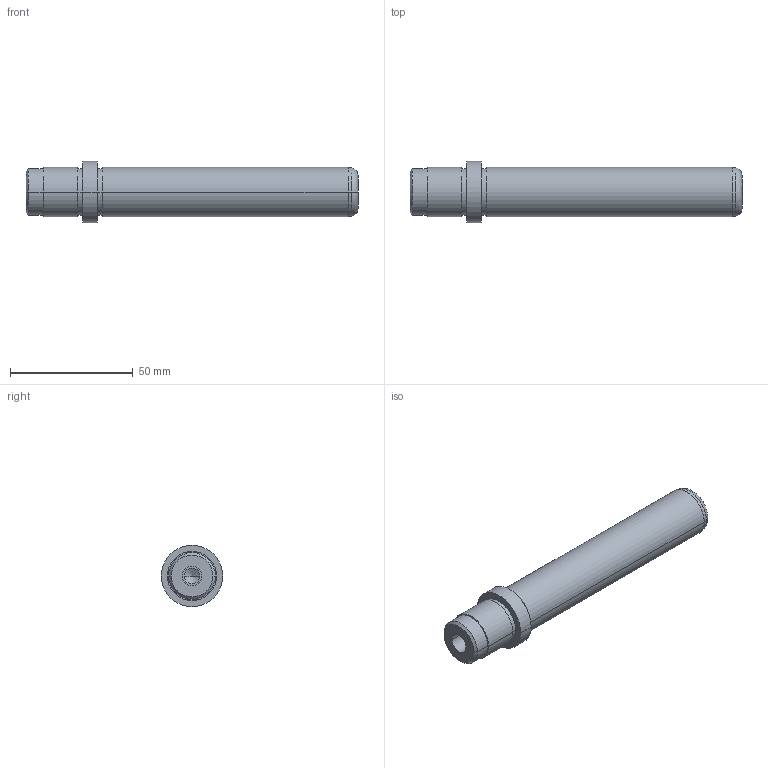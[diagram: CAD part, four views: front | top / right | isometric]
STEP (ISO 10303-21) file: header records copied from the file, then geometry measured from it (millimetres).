
FILE_DESCRIPTION( ( 'STEP AP203' ), '1' );
FILE_NAME( 'D:/Delta 3 D/D00/D00 - 20x112x23.step', '2003-01-02T06:40:18', ( ' ' ), ( ' ' ), 'XStep 1.0', ' ', ' ' );
FILE_SCHEMA( ( 'CONFIG_CONTROL_DESIGN' ) );
Length unit declared in the file: metre
Products named in the file (1): 1
Bounding box: 135 x 25 x 25 mm (x, y, z)
Volume: 40619.5 mm3; surface area: 10704.1 mm2
Topology: 1 solids, 1 shells, 39 faces, 78 edges, 48 vertices
Faces by surface type: revolution 28, bspline 11
Entity records: 1137 total; most frequent: CARTESIAN_POINT 277, DIRECTION 154, ORIENTED_EDGE 152, EDGE_CURVE 76, AXIS2_PLACEMENT_3D 49, EDGE_LOOP 48, VERTEX_POINT 48, CIRCLE 48
